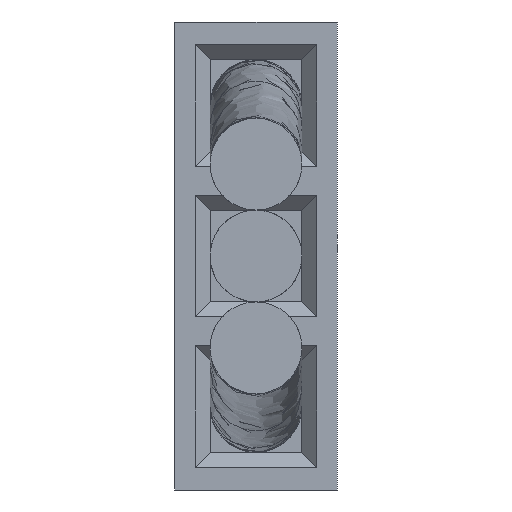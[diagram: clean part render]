
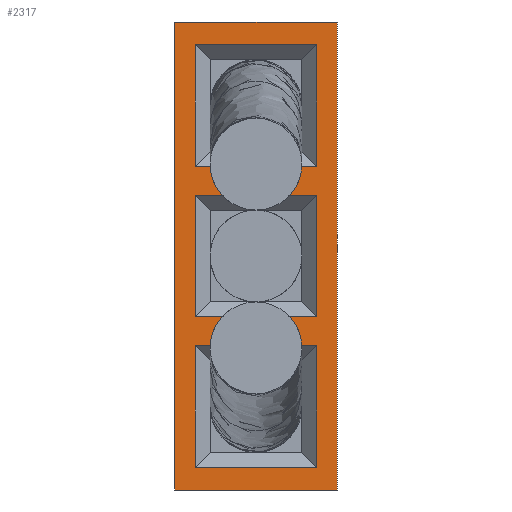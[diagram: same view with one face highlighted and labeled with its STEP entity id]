
A CAD part, left-side view. The second image highlights one B-rep face of the part: STEP entity #2317.
In plain terms, the highlighted planar face has unit normal (-1, 0, 0).
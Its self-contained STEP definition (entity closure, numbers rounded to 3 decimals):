
#73=FACE_BOUND('',#357,.T.);
#74=FACE_BOUND('',#358,.T.);
#75=FACE_BOUND('',#359,.T.);
#106=PLANE('',#2579);
#225=FACE_OUTER_BOUND('',#356,.T.);
#356=EDGE_LOOP('',(#1825,#1826,#1827,#1828));
#357=EDGE_LOOP('',(#1829,#1830,#1831,#1832));
#358=EDGE_LOOP('',(#1833,#1834,#1835,#1836));
#359=EDGE_LOOP('',(#1837,#1838,#1839,#1840));
#573=LINE('',#3613,#858);
#577=LINE('',#3620,#862);
#579=LINE('',#3624,#864);
#582=LINE('',#3629,#867);
#587=LINE('',#3639,#872);
#588=LINE('',#3641,#873);
#589=LINE('',#3643,#874);
#590=LINE('',#3644,#875);
#591=LINE('',#3647,#876);
#592=LINE('',#3649,#877);
#593=LINE('',#3651,#878);
#594=LINE('',#3652,#879);
#595=LINE('',#3655,#880);
#596=LINE('',#3657,#881);
#597=LINE('',#3659,#882);
#598=LINE('',#3660,#883);
#858=VECTOR('',#2924,10.);
#862=VECTOR('',#2930,10.);
#864=VECTOR('',#2934,10.);
#867=VECTOR('',#2939,10.);
#872=VECTOR('',#2950,10.);
#873=VECTOR('',#2951,10.);
#874=VECTOR('',#2952,10.);
#875=VECTOR('',#2953,10.);
#876=VECTOR('',#2954,10.);
#877=VECTOR('',#2955,10.);
#878=VECTOR('',#2956,10.);
#879=VECTOR('',#2957,10.);
#880=VECTOR('',#2958,10.);
#881=VECTOR('',#2959,10.);
#882=VECTOR('',#2960,10.);
#883=VECTOR('',#2961,10.);
#1178=VERTEX_POINT('',#3611);
#1179=VERTEX_POINT('',#3612);
#1181=VERTEX_POINT('',#3619);
#1182=VERTEX_POINT('',#3623);
#1184=VERTEX_POINT('',#3637);
#1185=VERTEX_POINT('',#3638);
#1186=VERTEX_POINT('',#3640);
#1187=VERTEX_POINT('',#3642);
#1188=VERTEX_POINT('',#3645);
#1189=VERTEX_POINT('',#3646);
#1190=VERTEX_POINT('',#3648);
#1191=VERTEX_POINT('',#3650);
#1192=VERTEX_POINT('',#3653);
#1193=VERTEX_POINT('',#3654);
#1194=VERTEX_POINT('',#3656);
#1195=VERTEX_POINT('',#3658);
#1417=EDGE_CURVE('',#1178,#1179,#573,.T.);
#1421=EDGE_CURVE('',#1179,#1181,#577,.T.);
#1423=EDGE_CURVE('',#1182,#1178,#579,.T.);
#1426=EDGE_CURVE('',#1181,#1182,#582,.T.);
#1431=EDGE_CURVE('',#1184,#1185,#587,.T.);
#1432=EDGE_CURVE('',#1186,#1184,#588,.T.);
#1433=EDGE_CURVE('',#1187,#1186,#589,.T.);
#1434=EDGE_CURVE('',#1185,#1187,#590,.T.);
#1435=EDGE_CURVE('',#1188,#1189,#591,.T.);
#1436=EDGE_CURVE('',#1190,#1188,#592,.T.);
#1437=EDGE_CURVE('',#1191,#1190,#593,.T.);
#1438=EDGE_CURVE('',#1189,#1191,#594,.T.);
#1439=EDGE_CURVE('',#1192,#1193,#595,.T.);
#1440=EDGE_CURVE('',#1194,#1192,#596,.T.);
#1441=EDGE_CURVE('',#1195,#1194,#597,.T.);
#1442=EDGE_CURVE('',#1193,#1195,#598,.T.);
#1825=ORIENTED_EDGE('',*,*,#1431,.F.);
#1826=ORIENTED_EDGE('',*,*,#1432,.F.);
#1827=ORIENTED_EDGE('',*,*,#1433,.F.);
#1828=ORIENTED_EDGE('',*,*,#1434,.F.);
#1829=ORIENTED_EDGE('',*,*,#1435,.F.);
#1830=ORIENTED_EDGE('',*,*,#1436,.F.);
#1831=ORIENTED_EDGE('',*,*,#1437,.F.);
#1832=ORIENTED_EDGE('',*,*,#1438,.F.);
#1833=ORIENTED_EDGE('',*,*,#1439,.F.);
#1834=ORIENTED_EDGE('',*,*,#1440,.F.);
#1835=ORIENTED_EDGE('',*,*,#1441,.F.);
#1836=ORIENTED_EDGE('',*,*,#1442,.F.);
#1837=ORIENTED_EDGE('',*,*,#1417,.F.);
#1838=ORIENTED_EDGE('',*,*,#1423,.F.);
#1839=ORIENTED_EDGE('',*,*,#1426,.F.);
#1840=ORIENTED_EDGE('',*,*,#1421,.F.);
#2317=ADVANCED_FACE('',(#225,#73,#74,#75),#106,.T.);
#2579=AXIS2_PLACEMENT_3D('',#3636,#2948,#2949);
#2924=DIRECTION('',(0.,1.,0.));
#2930=DIRECTION('',(0.,0.,-1.));
#2934=DIRECTION('',(0.,0.,1.));
#2939=DIRECTION('',(0.,-1.,0.));
#2948=DIRECTION('center_axis',(-1.,0.,0.));
#2949=DIRECTION('ref_axis',(0.,0.,1.));
#2950=DIRECTION('',(0.,-1.,0.));
#2951=DIRECTION('',(0.,0.,1.));
#2952=DIRECTION('',(0.,1.,0.));
#2953=DIRECTION('',(0.,0.,-1.));
#2954=DIRECTION('',(0.,1.,0.));
#2955=DIRECTION('',(0.,0.,1.));
#2956=DIRECTION('',(0.,-1.,0.));
#2957=DIRECTION('',(0.,0.,-1.));
#2958=DIRECTION('',(0.,1.,0.));
#2959=DIRECTION('',(0.,0.,1.));
#2960=DIRECTION('',(0.,-1.,0.));
#2961=DIRECTION('',(0.,0.,-1.));
#3611=CARTESIAN_POINT('',(0.,-1.029,-1.511));
#3612=CARTESIAN_POINT('',(0.,1.029,-1.511));
#3613=CARTESIAN_POINT('',(0.,-0.388,-1.511));
#3619=CARTESIAN_POINT('',(0.,1.029,-3.569));
#3620=CARTESIAN_POINT('',(0.,1.029,-2.858));
#3623=CARTESIAN_POINT('',(0.,-1.029,-3.569));
#3624=CARTESIAN_POINT('',(0.,-1.029,-3.633));
#3629=CARTESIAN_POINT('',(0.,0.388,-3.569));
#3636=CARTESIAN_POINT('Origin',(0.,0.,-3.95));
#3637=CARTESIAN_POINT('',(0.,1.375,3.95));
#3638=CARTESIAN_POINT('',(0.,-1.375,3.95));
#3639=CARTESIAN_POINT('',(0.,0.,3.95));
#3640=CARTESIAN_POINT('',(0.,1.375,-3.95));
#3641=CARTESIAN_POINT('',(0.,1.375,-3.95));
#3642=CARTESIAN_POINT('',(0.,-1.375,-3.95));
#3643=CARTESIAN_POINT('',(0.,0.,-3.95));
#3644=CARTESIAN_POINT('',(0.,-1.375,-3.95));
#3645=CARTESIAN_POINT('',(0.,-1.029,1.029));
#3646=CARTESIAN_POINT('',(0.,1.029,1.029));
#3647=CARTESIAN_POINT('',(0.,-0.388,1.029));
#3648=CARTESIAN_POINT('',(0.,-1.029,-1.029));
#3649=CARTESIAN_POINT('',(0.,-1.029,-2.363));
#3650=CARTESIAN_POINT('',(0.,1.029,-1.029));
#3651=CARTESIAN_POINT('',(0.,0.388,-1.029));
#3652=CARTESIAN_POINT('',(0.,1.029,-1.588));
#3653=CARTESIAN_POINT('',(0.,-1.029,3.569));
#3654=CARTESIAN_POINT('',(0.,1.029,3.569));
#3655=CARTESIAN_POINT('',(0.,-0.388,3.569));
#3656=CARTESIAN_POINT('',(0.,-1.029,1.511));
#3657=CARTESIAN_POINT('',(0.,-1.029,-1.093));
#3658=CARTESIAN_POINT('',(0.,1.029,1.511));
#3659=CARTESIAN_POINT('',(0.,0.388,1.511));
#3660=CARTESIAN_POINT('',(0.,1.029,-0.317));
